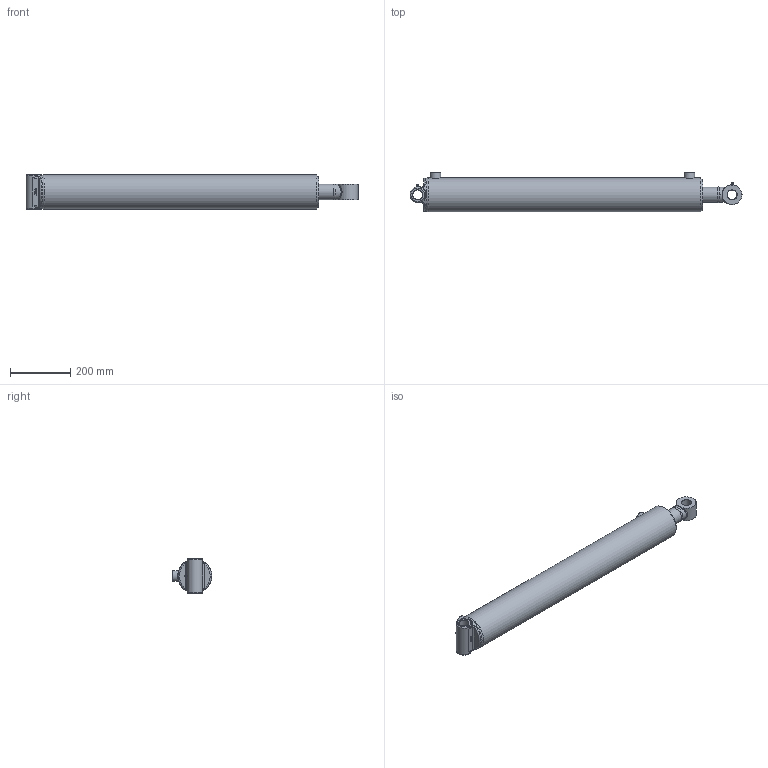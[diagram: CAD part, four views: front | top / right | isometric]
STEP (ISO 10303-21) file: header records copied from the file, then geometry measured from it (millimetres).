
FILE_DESCRIPTION(/* description */ ('Ø4.00 X 32.00 DA'),/* implementation_level */ '2;1');
FILE_NAME(/* name */ 'D:\Temp\1EC677A6E7D1F06\hdhzm2yq.3zc\Temp\cjatnfqn..stp',/* time_stamp */ '2020-09-18T15:58:45+00:00',/* author */ (''),/* organization */ ('PRINCE MANUFACTURING'),/* preprocessor_version */ 'ST-DEVELOPER v18.1',/* originating_system */ 'Autodesk Inventor 2021',/* authorisation */ '');
FILE_SCHEMA (('AUTOMOTIVE_DESIGN { 1 0 10303 214 3 1 1 }'));
Length unit declared in the file: inch
Products named in the file (21): PC4032020A00-410XTXS; 0619-XTSG00-320; 0519-T-35620; 161900225; 200015706; 06Weld1_C360; 0719-P-125; 220000212; 0819-G-200; 230025106; 230025006; 240000026; 240061342; 240000342; 0211-AXS40-410X; 0111A-JAW4-37937; 210600511; 02Weld_C360; 240020009; 250014200; 270010020
Assembly tree (22 placements, depth 3):
  PC4032020A00-410XTXS
    0619-XTSG00-320
      0519-T-35620
      161900225
      200015706  x2
      06Weld1_C360
    0719-P-125
    220000212
    0819-G-200
    230025106
    230025006
    240000026
    240061342
    240000342
    0211-AXS40-410X
      0111A-JAW4-37937
      210600511
      02Weld_C360
    240020009
    250014200
    270010020  x2
Bounding box: 1099.47 x 132.19 x 114.3 mm (x, y, z)
Volume: 4523884.8 mm3; surface area: 992584.2 mm2
Topology: 26 solids, 26 shells, 499 faces, 1415 edges, 978 vertices
Faces by surface type: plane 139, bspline 126, torus 90, cylinder 80, cone 62, sphere 2
Full cylindrical faces by diameter (mm): 1.524 x2, 5.359 x2, 6.35 x2, 12.7 x2, 20.269 x2, 29.464 x1, 31.699 x1, 31.826 x1, 32.131 x2, 34.315 x1, 34.925 x2, 35.052 x2, 50.8 x1, 50.876 x2, 51.994 x2, 52.832 x1, 53.188 x1, 57.963 x1, 59.157 x1, 60.35 x1, 61.976 x2, 63.5 x2, 73.152 x1, 82.55 x1, 92.177 x2, 92.913 x2, 96.52 x1, 98.031 x2, 98.273 x4, 100.986 x2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
Entity records: 32925 total; most frequent: CARTESIAN_POINT 19556, ORIENTED_EDGE 2656, DIRECTION 2459, EDGE_CURVE 1328, AXIS2_PLACEMENT_3D 1059, VERTEX_POINT 925, CIRCLE 657, EDGE_LOOP 539
